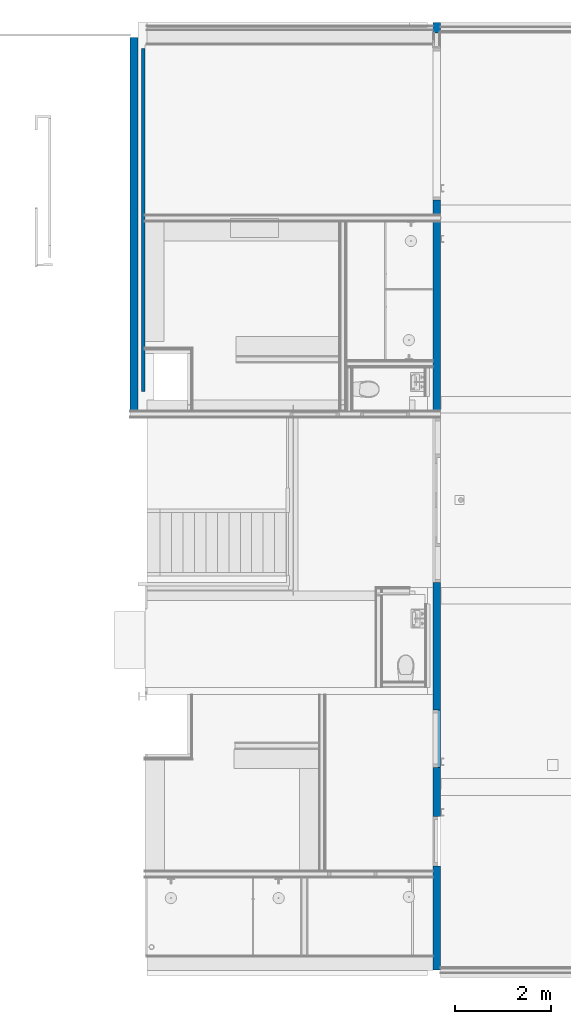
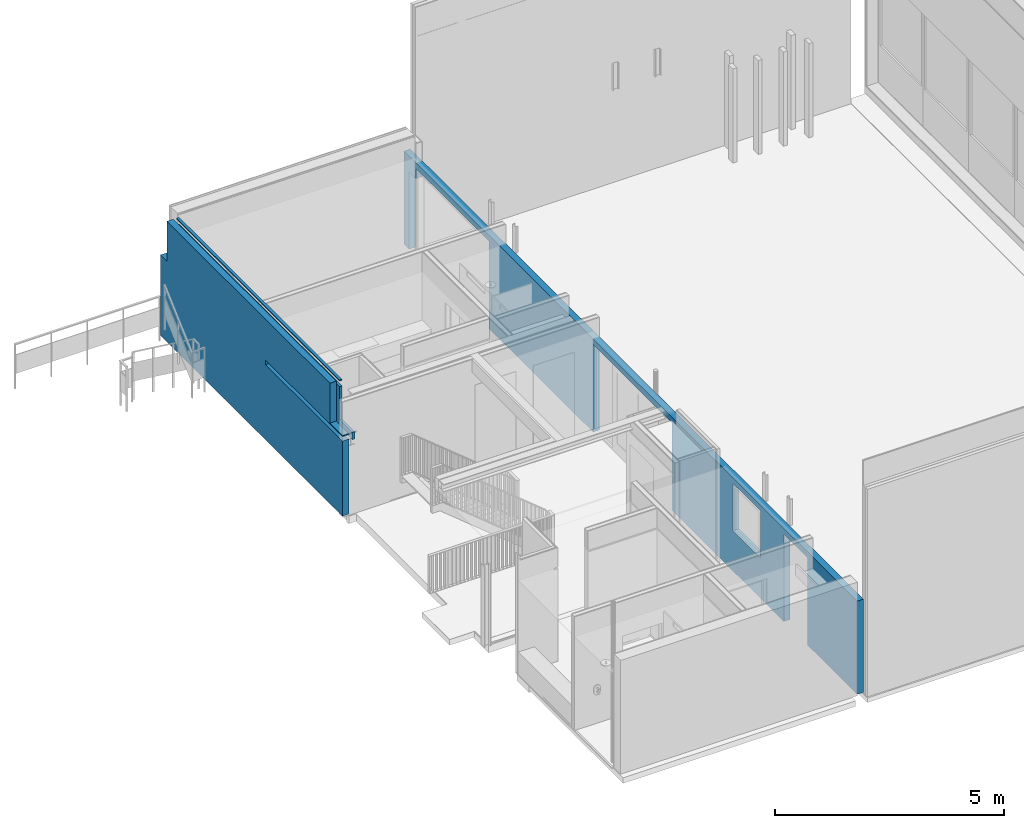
# One storey, part 7 of 35: 3 walls, 5 openings.
"""IFC2X3 building model written with IfcOpenShell, lengths in millimetres."""

from ifc_helpers import new_model, entity, si_unit, converted_unit, derived_unit, money_unit, direction, frame, origin_with_axes, place, context, subcontext, project, spatial, faceted_brep, material, type_object, element, save


model = new_model("IFC2X3")

# Units and contexts
model_context = context("Model", 3, precision=0.01, world=origin_with_axes(), true_north=direction((0.0, 1.0)))
body_context = subcontext(model_context, "Body", "Model", "MODEL_VIEW")
ifc_project = project(units=[si_unit("LENGTHUNIT", "METRE", prefix="MILLI"), si_unit("AREAUNIT", "SQUARE_METRE"), si_unit("VOLUMEUNIT", "CUBIC_METRE"), converted_unit("PLANEANGLEUNIT", "DEGREE", entity("IfcPlaneAngleMeasure", 0.0174532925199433), si_unit("PLANEANGLEUNIT", "RADIAN"), dimensions=[0, 0, 0, 0, 0, 0, 0]), money_unit("EUR"), converted_unit("TIMEUNIT", "Year", entity("IfcTimeMeasure", 31557600.0), si_unit("TIMEUNIT", "SECOND"), dimensions=[0, 0, 1, 0, 0, 0, 0]), si_unit("MASSUNIT", "GRAM", prefix="KILO"), si_unit("THERMODYNAMICTEMPERATUREUNIT", "DEGREE_CELSIUS"), si_unit("LUMINOUSINTENSITYUNIT", "LUMEN"), si_unit("ENERGYUNIT", "JOULE", prefix="MEGA"), derived_unit("THERMALCONDUCTANCEUNIT", [(si_unit("POWERUNIT", "WATT"), 1), (si_unit("LENGTHUNIT", "METRE"), -1), (si_unit("THERMODYNAMICTEMPERATUREUNIT", "KELVIN"), -1)]), derived_unit("SPECIFICHEATCAPACITYUNIT", [(si_unit("ENERGYUNIT", "JOULE"), 1), (si_unit("MASSUNIT", "GRAM", prefix="KILO"), -1), (si_unit("THERMODYNAMICTEMPERATUREUNIT", "KELVIN"), -1)]), derived_unit("MASSDENSITYUNIT", [(si_unit("MASSUNIT", "GRAM", prefix="KILO"), 1), (si_unit("VOLUMEUNIT", "CUBIC_METRE"), -1)])], contexts=[model_context])

# Site, building, storey
site_placement = place(None, origin_with_axes())
site = spatial("IfcSite", under=ifc_project, at=site_placement, Name="<site naam>", CompositionType="ELEMENT")
building_placement = place(site_placement, origin_with_axes())
building = spatial("IfcBuilding", under=site, at=building_placement, Name="<Naam gebouw>", CompositionType="ELEMENT")
storey_placement = place(building_placement, frame((0.0, 0.0, 6345.0), z_axis=(0.0, 0.0, 1.0), x_axis=(1.0, 0.0, 0.0)))
storey = spatial("IfcBuildingStorey", under=building, at=storey_placement, Name="02 2e tussenverdieping", CompositionType="ELEMENT", Elevation=6345.0)

# Wall
ifc_material_1 = material(Name="beton_gewapend C")
wall_type_1 = type_object("IfcWallType", Name="beton 160 160", PredefinedType="NOTDEFINED")
wall_1_placement = place(storey_placement, frame((51985.00000000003, 19685.91067811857, 0.0), z_axis=(0.0, 0.0, 1.0), x_axis=(0.0, -1.0, 0.0)))
element("IfcWall", 1, at=wall_1_placement, inside=storey, type_object=wall_type_1, material=ifc_material_1, Name="22_Binnenwand_beton", context=body_context, shape_type="Brep", body=[
    faceted_brep([(274.9999999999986, -159.9999999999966, 3218.000000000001), (7410.910678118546, -159.9999999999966, 3218.000000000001), (7410.910678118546, 0.0, 3218.000000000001), (274.9999999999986, 0.0, 3218.000000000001), (7960.910678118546, -159.9999999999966, 2155.0), (7410.910678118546, -159.9999999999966, 2155.0), (274.9999999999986, -159.9999999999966, 2155.0), (0.0, -159.9999999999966, 2155.0), (0.0, -159.9999999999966, 0.0), (7960.910678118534, -160.0000000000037, 0.0), (7960.910678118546, -160.0000000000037, 2005.000000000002), (4594.337947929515, -160.0000000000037, 2005.000000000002), (4594.337947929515, -160.0000000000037, 2125.000000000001), (7960.910678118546, -160.0000000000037, 2125.000000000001), (7410.910678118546, 0.0, 2155.0), (7960.910678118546, 0.0, 2155.0), (7960.910678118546, 0.0, 2125.000000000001), (4594.337947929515, 0.0, 2125.000000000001), (4594.337947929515, 0.0, 2005.000000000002), (7960.910678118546, 0.0, 2005.000000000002), (7960.910678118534, 0.0, 0.0), (0.0, 0.0, 0.0), (0.0, 0.0, 2155.0), (274.9999999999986, 0.0, 2155.0)], [[[0, 1, 2, 3]], [[4, 5, 1, 0, 6, 7, 8, 9, 10, 11, 12, 13]], [[5, 14, 2, 1]], [[2, 14, 15, 16, 17, 18, 19, 20, 21, 22, 23, 3]], [[6, 0, 3, 23]], [[4, 15, 14, 5]], [[6, 23, 22, 7]], [[8, 7, 22, 21]], [[9, 8, 21, 20]], [[9, 20, 19, 10]], [[11, 10, 19, 18]], [[12, 11, 18, 17]], [[13, 12, 17, 16]], [[16, 15, 4, 13]]]),
])

# Wall, openings
ifc_material_2 = material(Name="beton")
wall_type_2 = type_object("IfcWallType", Name="beton 160", PredefinedType="NOTDEFINED")
wall_2_placement = place(storey_placement, frame((58317.78284470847, 20000.00000000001, 0.0), z_axis=(0.0, 0.0, 1.0), x_axis=(0.0, -1.0, 0.0)))
wall_2 = element("IfcWall", 2, at=wall_2_placement, inside=storey, type_object=wall_type_2, material=ifc_material_2, Name="22_Binnenwand_beton", context=body_context, shape_type="Brep", body=[
    faceted_brep([(0.0, 0.0, 2517.500000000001), (19825.0, 0.0, 2517.500000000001), (19825.0, 0.0, 30.00000000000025), (0.0, 0.0, 30.00000000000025), (0.0, -159.9999999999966, 2517.500000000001), (19825.0, -160.0000000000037, 2517.500000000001), (19825.0, -160.0000000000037, 30.00000000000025), (0.0, -159.9999999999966, 30.00000000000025)], [[[0, 1, 2, 3]], [[4, 5, 1, 0]], [[1, 5, 6, 2]], [[2, 6, 7, 3]], [[4, 0, 3, 7]], [[5, 4, 7, 6]]]),
])
opening_1_placement = place(wall_2_placement, frame((14989.99999999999, 0.0, 1100.0), z_axis=(0.0, 0.0, 1.0), x_axis=(1.0, 0.0, 0.0)))
element("IfcOpeningElement", 3, at=opening_1_placement, cuts=wall_2, Name="22_BI-E-21_305", context=body_context, shape_type="Brep", body=[
    faceted_brep([(599.9999999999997, 1.000000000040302, 1267.0), (599.9999999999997, 1.000000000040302, 0.0), (-599.9999999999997, 1.000000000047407, 0.0), (-599.9999999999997, 1.000000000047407, 1267.0), (599.9999999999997, -161.0000000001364, 1267.0), (599.9999999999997, -161.0000000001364, 0.0), (-599.9999999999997, -161.0000000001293, 0.0), (-599.9999999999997, -161.0000000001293, 1267.0)], [[[0, 1, 2, 3]], [[4, 5, 1, 0]], [[5, 6, 2, 1]], [[6, 7, 3, 2]], [[7, 4, 0, 3]], [[6, 5, 4, 7]]]),
])
opening_2_placement = place(wall_2_placement, frame((9999.999999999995, 0.0, 0.0), z_axis=(0.0, 0.0, 1.0), x_axis=(1.0, 0.0, 0.0)))
element("IfcOpeningElement", 4, at=opening_2_placement, cuts=wall_2, Name="22_BI-D-05_305", context=body_context, shape_type="Brep", body=[
    faceted_brep([(-1724.999999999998, -160.9999999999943, 2367.0), (-1724.999999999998, -160.9999999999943, 0.0), (1724.999999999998, -160.9999999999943, 0.0), (1724.999999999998, -160.9999999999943, 2367.0), (-1724.999999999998, 0.9999999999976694, 2367.0), (-1724.999999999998, 0.9999999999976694, 0.0), (1724.999999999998, 0.9999999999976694, 0.0), (1724.999999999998, 0.9999999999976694, 2367.0)], [[[0, 1, 2, 3]], [[4, 5, 1, 0]], [[5, 6, 2, 1]], [[6, 7, 3, 2]], [[7, 4, 0, 3]], [[6, 5, 4, 7]]]),
])
opening_3_placement = place(wall_2_placement, frame((1968.213274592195, 0.0, 0.0), z_axis=(0.0, 0.0, 1.0), x_axis=(1.0, 0.0, 0.0)))
element("IfcOpeningElement", 5, at=opening_3_placement, cuts=wall_2, Name="22__305", context=body_context, shape_type="Brep", body=[
    faceted_brep([(-1750.0, -160.9999999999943, 2100.0), (-1750.0, -160.9999999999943, 0.0), (1750.0, -161.0000000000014, 0.0), (1750.0, -161.0000000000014, 2100.0), (-1750.0, 1.000000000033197, 2100.0), (-1750.0, 1.000000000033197, 0.0), (1750.0, 1.000000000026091, 0.0), (1750.0, 1.000000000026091, 2100.0)], [[[0, 1, 2, 3]], [[4, 5, 1, 0]], [[5, 6, 2, 1]], [[6, 7, 3, 2]], [[7, 4, 0, 3]], [[6, 5, 4, 7]]]),
])
opening_4_placement = place(wall_2_placement, frame((17133.0, 0.0, 0.0), z_axis=(0.0, 0.0, 1.0), x_axis=(1.0, 0.0, 0.0)))
element("IfcOpeningElement", 6, at=opening_4_placement, cuts=wall_2, Name="22_BI-A-05_305", context=body_context, shape_type="Brep", body=[
    faceted_brep([(516.9999999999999, 1.000000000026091, 2367.0), (516.9999999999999, 1.000000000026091, 0.0), (-516.9999999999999, 1.000000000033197, 0.0), (-516.9999999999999, 1.000000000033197, 2367.0), (516.9999999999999, -161.0000000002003, 2367.0), (516.9999999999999, -161.0000000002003, 0.0), (-516.9999999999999, -161.0000000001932, 0.0), (-516.9999999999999, -161.0000000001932, 2367.0)], [[[0, 1, 2, 3]], [[4, 5, 1, 0]], [[5, 6, 2, 1]], [[6, 7, 3, 2]], [[7, 4, 0, 3]], [[6, 5, 4, 7]]]),
])
opening_5_placement = place(wall_2_placement, frame((2124.106706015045, 0.0, 0.0), z_axis=(0.0, 0.0, 1.0), x_axis=(1.0, 0.0, 0.0)))
element("IfcOpeningElement", 7, at=opening_5_placement, cuts=wall_2, Name="22_BI-H-03_305", context=body_context, shape_type="Brep", body=[
    faceted_brep([(-1594.10656857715, -160.9999999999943, 2367.0), (-1594.10656857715, -160.9999999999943, 0.0), (1594.10656857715, -161.0000000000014, 0.0), (1594.10656857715, -161.0000000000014, 2367.0), (-1594.10656857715, 0.9999999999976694, 2367.0), (-1594.10656857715, 0.9999999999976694, 0.0), (1594.10656857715, 0.999999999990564, 0.0), (1594.10656857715, 0.999999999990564, 2367.0)], [[[0, 1, 2, 3]], [[4, 5, 1, 0]], [[5, 6, 2, 1]], [[6, 7, 3, 2]], [[7, 4, 0, 3]], [[6, 5, 4, 7]]]),
])

# Wall
ifc_material_3 = material(Name="metal_stud")
wall_type_3 = type_object("IfcWallType", Name="metalstud 70 70", PredefinedType="NOTDEFINED")
wall_3_placement = place(storey_placement, frame((52135.00000000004, 11725.00000000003, -30.00000000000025), z_axis=(0.0, 0.0, 1.0), x_axis=(0.0, 1.0, 0.0)))
element("IfcWall", 8, at=wall_3_placement, inside=storey, type_object=wall_type_3, material=ifc_material_3, Name="22_Binnenwand_metalstud", context=body_context, shape_type="Brep", body=[
    faceted_brep([(7724.999999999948, 70.00000000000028, 0.0), (7724.999999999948, 70.00000000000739, 2185.0), (7724.999999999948, 0.0, 2185.0), (7724.999999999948, 0.0, 0.0), (7685.910678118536, 70.00000000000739, 3068.000000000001), (7685.910678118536, 70.00000000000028, 2185.0), (549.9999999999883, 70.00000000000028, 0.0), (549.9999999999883, 70.00000000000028, 1985.000000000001), (0.0, 70.00000000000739, 1985.000000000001), (0.0, 70.00000000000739, 2185.0), (549.9999999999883, 70.00000000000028, 2185.0), (549.9999999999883, 70.00000000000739, 3068.000000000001), (7685.910678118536, 0.0, 2185.0), (7685.910678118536, 0.0, 3068.000000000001), (549.9999999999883, 0.0, 3068.000000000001), (549.9999999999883, 0.0, 2185.0), (0.0, 0.0, 2185.0), (0.0, 0.0, 1985.000000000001), (549.9999999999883, 0.0, 1985.000000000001), (549.9999999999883, 0.0, 0.0)], [[[0, 1, 2, 3]], [[4, 5, 1, 0, 6, 7, 8, 9, 10, 11]], [[5, 12, 2, 1]], [[2, 12, 13, 14, 15, 16, 17, 18, 19, 3]], [[3, 19, 6, 0]], [[5, 4, 13, 12]], [[6, 19, 18, 7]], [[7, 18, 17, 8]], [[9, 8, 17, 16]], [[9, 16, 15, 10]], [[10, 15, 14, 11]], [[14, 13, 4, 11]]]),
    faceted_brep([(549.9999999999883, 0.0, 3218.000000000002), (7685.910678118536, 0.0, 3218.000000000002), (7685.910678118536, 0.0, 3248.0), (549.9999999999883, 0.0, 3248.0), (549.9999999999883, 70.00000000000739, 3218.000000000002), (7685.910678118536, 70.00000000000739, 3218.000000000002), (7685.910678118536, 70.00000000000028, 3248.0), (549.9999999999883, 70.00000000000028, 3248.0)], [[[0, 1, 2, 3]], [[4, 5, 1, 0]], [[5, 6, 2, 1]], [[3, 2, 6, 7]], [[4, 0, 3, 7]], [[7, 6, 5, 4]]]),
])

save(model, "model.ifc")
